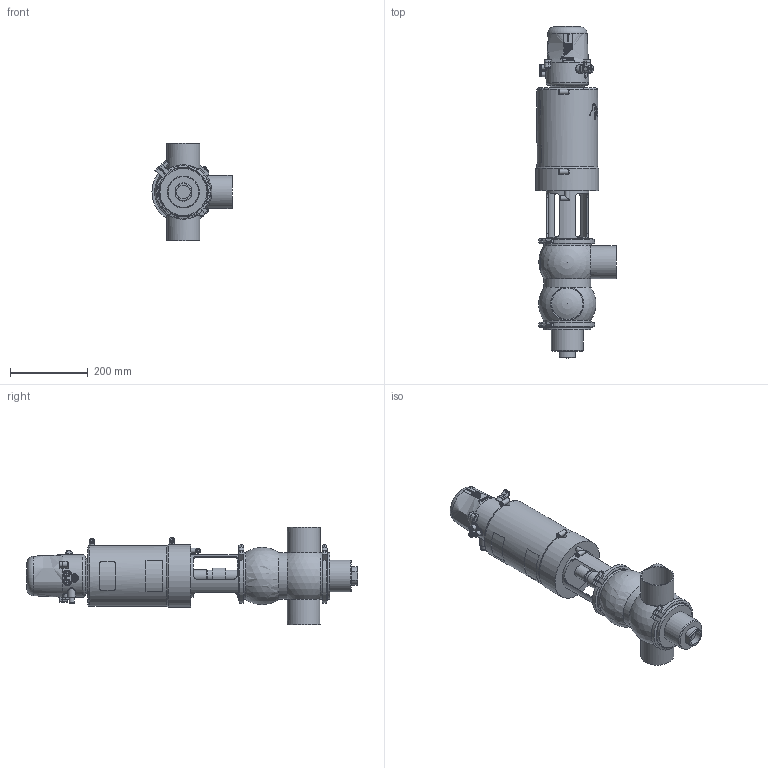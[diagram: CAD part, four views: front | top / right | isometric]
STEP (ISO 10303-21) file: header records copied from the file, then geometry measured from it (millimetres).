
FILE_DESCRIPTION (( 'STEP AP214' ), '1' );
FILE_NAME ('INNOVA P BB-90 W DIN 080 & C-TOP S_10.250.16.0013.STEP', '2024-08-09T11:57:19', ( '' ), ( '' ), 'SwSTEP 2.0', 'SolidWorks 2023', '' );
FILE_SCHEMA (( 'AUTOMOTIVE_DESIGN' ));
Length unit declared in the file: millimetre
Products named in the file (7): INNOVA P BB-90 W DIN 080 & C-TOP S_10.250.16.0013; 10.250.15.0003_DN 080; 10.251.15.0005_DIN 080; 10.426.15.0001_C-TOP S - 3 EV; 10.250.15.0001_DIN 080; 10.250.15.0002_Type P T2; 10.240.15.0001_DN 080
Assembly tree (7 placements, depth 2):
  INNOVA P BB-90 W DIN 080 & C-TOP S_10.250.16.0013
    10.250.15.0001_DIN 080
    10.250.15.0002_Type P T2
    10.426.15.0001_C-TOP S - 3 EV
    10.251.15.0005_DIN 080
    10.240.15.0001_DN 080  x2
    10.250.15.0003_DN 080
Bounding box: 205.5 x 851.5 x 250 mm (x, y, z)
Volume: 10572255.9 mm3; surface area: 666767.3 mm2
Topology: 7 solids, 7 shells, 1207 faces, 2915 edges, 1938 vertices
Faces by surface type: plane 413, cylinder 385, cone 204, bspline 162, torus 33, sphere 10
Full cylindrical faces by diameter (mm): 0.371 x17, 0.512 x16, 0.658 x16, 0.795 x16, 0.94 x15, 1.098 x15, 1.241 x13, 1.382 x13, 1.523 x11, 1.669 x10, 2.201 x1, 4.2 x2, 5 x1, 5.5 x2, 6 x4, 6.15 x3, 8 x5, 10 x1, 10.5 x3, 11 x4, 12.5 x9, 13 x6, 13.5 x2, 17 x3, 20 x2, 22 x2, 30.5 x2, 32 x1, 35 x1, 41 x1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
Entity records: 60172 total; most frequent: CARTESIAN_POINT 28699, ORIENTED_EDGE 4626, DIRECTION 3773, EDGE_CURVE 2313, VERTEX_POINT 1649, EDGE_LOOP 1628, AXIS2_PLACEMENT_3D 1556, FACE_OUTER_BOUND 1376
